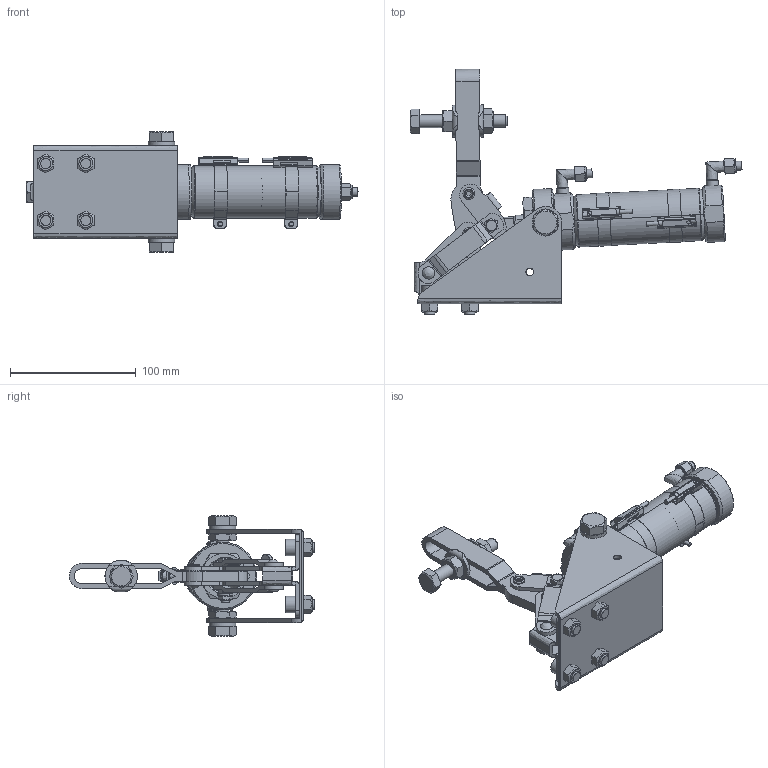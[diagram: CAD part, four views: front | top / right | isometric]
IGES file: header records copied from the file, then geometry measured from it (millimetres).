
Global section: file name: No.AC650S(ul); native system: Autodesk Inventor 2020; preprocessor: unknown; author: 高橋善宗,,11,0, ; organization: 20160225.084629; date: 20211109.114759; units: millimetre
Bounding box: 263.65 x 194.83 x 96 mm (x, y, z)
Volume: 332061.8 mm3; surface area: 184229.1 mm2
Topology: 44 solids, 44 shells, 874 faces, 2210 edges, 1466 vertices
Faces by surface type: bspline 874
